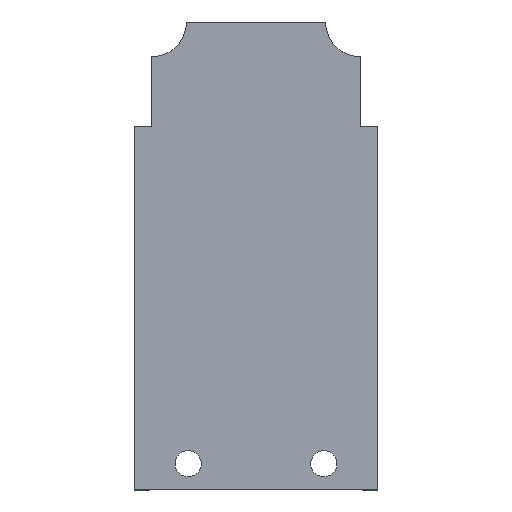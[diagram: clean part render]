
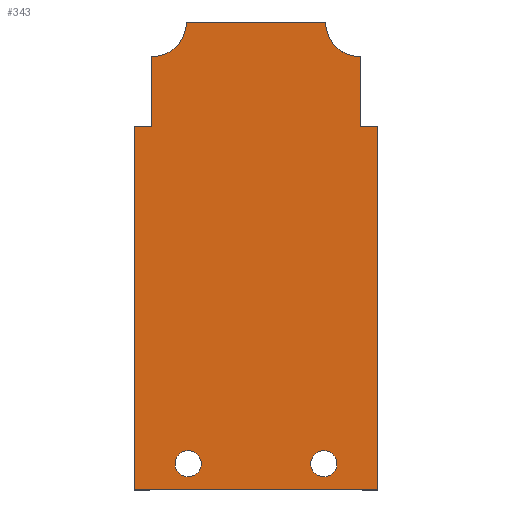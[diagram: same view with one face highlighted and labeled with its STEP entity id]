
A CAD part, top view. The second image highlights one B-rep face of the part: STEP entity #343.
In plain terms, the highlighted planar face has unit normal (0, 0, 1).
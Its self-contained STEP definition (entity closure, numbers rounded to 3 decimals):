
#45 = LINE ( 'NONE', #555, #2152 ) ;
#59 = DIRECTION ( 'NONE',  ( 0., 0., 1. ) ) ;
#71 = CARTESIAN_POINT ( 'NONE',  ( 11039., 3885., 3484. ) ) ;
#89 = VERTEX_POINT ( 'NONE', #145 ) ;
#97 = CARTESIAN_POINT ( 'NONE',  ( 10930., 4079., 3484. ) ) ;
#107 = VERTEX_POINT ( 'NONE', #1158 ) ;
#110 = EDGE_CURVE ( 'NONE', #2136, #551, #1715, .T. ) ;
#145 = CARTESIAN_POINT ( 'NONE',  ( 10968.5, 3885., 3484. ) ) ;
#155 = DIRECTION ( 'NONE',  ( 1., 0., 0. ) ) ;
#159 = CARTESIAN_POINT ( 'NONE',  ( 11040., 4139., 3484. ) ) ;
#195 = CARTESIAN_POINT ( 'NONE',  ( 10930., 4079., 3484. ) ) ;
#200 = CARTESIAN_POINT ( 'NONE',  ( 10960., 4139., 3484. ) ) ;
#216 = DIRECTION ( 'NONE',  ( 1., 0., 0. ) ) ;
#217 = DIRECTION ( 'NONE',  ( 0., -1., 0. ) ) ;
#261 = CIRCLE ( 'NONE', #805, 7.5 ) ;
#276 = CARTESIAN_POINT ( 'NONE',  ( 10930., 3870., 3484. ) ) ;
#284 = CARTESIAN_POINT ( 'NONE',  ( 10940., 4139., 3484. ) ) ;
#286 = CARTESIAN_POINT ( 'NONE',  ( 11039., 3885., 3484. ) ) ;
#308 = EDGE_CURVE ( 'NONE', #2102, #1924, #1374, .T. ) ;
#330 = CIRCLE ( 'NONE', #507, 7.5 ) ;
#343 = ADVANCED_FACE ( 'NONE', ( #578, #392, #1098 ), #1423, .F. ) ;
#373 = ORIENTED_EDGE ( 'NONE', *, *, #1648, .F. ) ;
#392 = FACE_BOUND ( 'NONE', #888, .T. ) ;
#402 = VECTOR ( 'NONE', #2203, 1000. ) ;
#405 = CIRCLE ( 'NONE', #1459, 7.5 ) ;
#439 = CARTESIAN_POINT ( 'NONE',  ( 10930., 3870., 3484. ) ) ;
#449 = CARTESIAN_POINT ( 'NONE',  ( 11070., 3870., 3484. ) ) ;
#450 = DIRECTION ( 'NONE',  ( 0., 0., -1. ) ) ;
#463 = ORIENTED_EDGE ( 'NONE', *, *, #110, .F. ) ;
#477 = VECTOR ( 'NONE', #2192, 1000. ) ;
#502 = CIRCLE ( 'NONE', #2110, 20. ) ;
#507 = AXIS2_PLACEMENT_3D ( 'NONE', #71, #450, #776 ) ;
#543 = AXIS2_PLACEMENT_3D ( 'NONE', #284, #1881, #1335 ) ;
#551 = VERTEX_POINT ( 'NONE', #200 ) ;
#555 = CARTESIAN_POINT ( 'NONE',  ( 10930., 4139., 3484. ) ) ;
#568 = VERTEX_POINT ( 'NONE', #1899 ) ;
#576 = EDGE_CURVE ( 'NONE', #1114, #1209, #502, .T. ) ;
#578 = FACE_BOUND ( 'NONE', #2241, .T. ) ;
#585 = ORIENTED_EDGE ( 'NONE', *, *, #1444, .F. ) ;
#589 = CARTESIAN_POINT ( 'NONE',  ( 11070., 4079., 3484. ) ) ;
#621 = ORIENTED_EDGE ( 'NONE', *, *, #1937, .T. ) ;
#643 = LINE ( 'NONE', #1582, #1019 ) ;
#650 = VERTEX_POINT ( 'NONE', #1252 ) ;
#659 = EDGE_CURVE ( 'NONE', #2199, #107, #1954, .T. ) ;
#680 = EDGE_CURVE ( 'NONE', #1530, #1924, #1671, .T. ) ;
#713 = EDGE_CURVE ( 'NONE', #568, #89, #261, .T. ) ;
#718 = CARTESIAN_POINT ( 'NONE',  ( 10930., 3870., 3484. ) ) ;
#732 = EDGE_CURVE ( 'NONE', #89, #568, #405, .T. ) ;
#746 = CARTESIAN_POINT ( 'NONE',  ( 10930., 3870., 3484. ) ) ;
#758 = EDGE_CURVE ( 'NONE', #107, #650, #1368, .T. ) ;
#776 = DIRECTION ( 'NONE',  ( -1., 0., 0. ) ) ;
#778 = DIRECTION ( 'NONE',  ( 0., 0., -1. ) ) ;
#805 = AXIS2_PLACEMENT_3D ( 'NONE', #1543, #1054, #1731 ) ;
#812 = CARTESIAN_POINT ( 'NONE',  ( 11060., 4079., 3484. ) ) ;
#848 = EDGE_CURVE ( 'NONE', #1530, #2199, #1268, .T. ) ;
#850 = CARTESIAN_POINT ( 'NONE',  ( 10940., 4119., 3484. ) ) ;
#851 = ORIENTED_EDGE ( 'NONE', *, *, #758, .F. ) ;
#886 = DIRECTION ( 'NONE',  ( 0., 0., -1. ) ) ;
#888 = EDGE_LOOP ( 'NONE', ( #1741, #621 ) ) ;
#932 = EDGE_CURVE ( 'NONE', #1830, #1488, #1792, .T. ) ;
#980 = ORIENTED_EDGE ( 'NONE', *, *, #2214, .F. ) ;
#1009 = CARTESIAN_POINT ( 'NONE',  ( 10961., 3885., 3484. ) ) ;
#1019 = VECTOR ( 'NONE', #1592, 1000. ) ;
#1054 = DIRECTION ( 'NONE',  ( 0., 0., -1. ) ) ;
#1082 = CARTESIAN_POINT ( 'NONE',  ( 11060., 3870., 3484. ) ) ;
#1091 = ORIENTED_EDGE ( 'NONE', *, *, #680, .T. ) ;
#1098 = FACE_OUTER_BOUND ( 'NONE', #1112, .T. ) ;
#1112 = EDGE_LOOP ( 'NONE', ( #980, #2068, #373, #463, #585, #851, #2206, #1687, #1091, #1371 ) ) ;
#1114 = VERTEX_POINT ( 'NONE', #159 ) ;
#1128 = ORIENTED_EDGE ( 'NONE', *, *, #713, .T. ) ;
#1158 = CARTESIAN_POINT ( 'NONE',  ( 10930., 4079., 3484. ) ) ;
#1209 = VERTEX_POINT ( 'NONE', #1553 ) ;
#1236 = VECTOR ( 'NONE', #1819, 1000. ) ;
#1252 = CARTESIAN_POINT ( 'NONE',  ( 10940., 4079., 3484. ) ) ;
#1268 = LINE ( 'NONE', #718, #1236 ) ;
#1282 = LINE ( 'NONE', #1082, #1836 ) ;
#1288 = CARTESIAN_POINT ( 'NONE',  ( 11046.5, 3885., 3484. ) ) ;
#1317 = DIRECTION ( 'NONE',  ( -1., 0., 0. ) ) ;
#1323 = CARTESIAN_POINT ( 'NONE',  ( 11031.5, 3885., 3484. ) ) ;
#1335 = DIRECTION ( 'NONE',  ( 1., 0., 0. ) ) ;
#1359 = DIRECTION ( 'NONE',  ( -1., 0., 0. ) ) ;
#1368 = LINE ( 'NONE', #195, #2078 ) ;
#1371 = ORIENTED_EDGE ( 'NONE', *, *, #308, .F. ) ;
#1374 = LINE ( 'NONE', #97, #1536 ) ;
#1423 = PLANE ( 'NONE',  #2186 ) ;
#1439 = CARTESIAN_POINT ( 'NONE',  ( 11070., 3870., 3484. ) ) ;
#1444 = EDGE_CURVE ( 'NONE', #650, #2136, #643, .T. ) ;
#1459 = AXIS2_PLACEMENT_3D ( 'NONE', #1009, #886, #1359 ) ;
#1488 = VERTEX_POINT ( 'NONE', #1288 ) ;
#1530 = VERTEX_POINT ( 'NONE', #1439 ) ;
#1536 = VECTOR ( 'NONE', #2171, 1000. ) ;
#1543 = CARTESIAN_POINT ( 'NONE',  ( 10961., 3885., 3484. ) ) ;
#1553 = CARTESIAN_POINT ( 'NONE',  ( 11060., 4119., 3484. ) ) ;
#1582 = CARTESIAN_POINT ( 'NONE',  ( 10940., 3870., 3484. ) ) ;
#1592 = DIRECTION ( 'NONE',  ( 0., 1., 0. ) ) ;
#1624 = DIRECTION ( 'NONE',  ( -1., 0., 0. ) ) ;
#1647 = DIRECTION ( 'NONE',  ( 1., 0., 0. ) ) ;
#1648 = EDGE_CURVE ( 'NONE', #551, #1114, #45, .T. ) ;
#1671 = LINE ( 'NONE', #449, #477 ) ;
#1687 = ORIENTED_EDGE ( 'NONE', *, *, #848, .F. ) ;
#1715 = CIRCLE ( 'NONE', #543, 20. ) ;
#1731 = DIRECTION ( 'NONE',  ( -1., 0., 0. ) ) ;
#1741 = ORIENTED_EDGE ( 'NONE', *, *, #932, .T. ) ;
#1745 = ORIENTED_EDGE ( 'NONE', *, *, #732, .T. ) ;
#1792 = CIRCLE ( 'NONE', #1900, 7.5 ) ;
#1819 = DIRECTION ( 'NONE',  ( -1., 0., 0. ) ) ;
#1830 = VERTEX_POINT ( 'NONE', #1323 ) ;
#1836 = VECTOR ( 'NONE', #217, 1000. ) ;
#1854 = DIRECTION ( 'NONE',  ( 0., 0., -1. ) ) ;
#1881 = DIRECTION ( 'NONE',  ( 0., 0., 1. ) ) ;
#1899 = CARTESIAN_POINT ( 'NONE',  ( 10953.5, 3885., 3484. ) ) ;
#1900 = AXIS2_PLACEMENT_3D ( 'NONE', #286, #1854, #1317 ) ;
#1924 = VERTEX_POINT ( 'NONE', #589 ) ;
#1937 = EDGE_CURVE ( 'NONE', #1488, #1830, #330, .T. ) ;
#1954 = LINE ( 'NONE', #276, #402 ) ;
#1979 = CARTESIAN_POINT ( 'NONE',  ( 11060., 4139., 3484. ) ) ;
#2068 = ORIENTED_EDGE ( 'NONE', *, *, #576, .F. ) ;
#2078 = VECTOR ( 'NONE', #155, 1000. ) ;
#2102 = VERTEX_POINT ( 'NONE', #812 ) ;
#2110 = AXIS2_PLACEMENT_3D ( 'NONE', #1979, #59, #1647 ) ;
#2136 = VERTEX_POINT ( 'NONE', #850 ) ;
#2152 = VECTOR ( 'NONE', #216, 1000. ) ;
#2171 = DIRECTION ( 'NONE',  ( 1., 0., 0. ) ) ;
#2186 = AXIS2_PLACEMENT_3D ( 'NONE', #439, #778, #1624 ) ;
#2192 = DIRECTION ( 'NONE',  ( 0., 1., 0. ) ) ;
#2199 = VERTEX_POINT ( 'NONE', #746 ) ;
#2203 = DIRECTION ( 'NONE',  ( 0., 1., 0. ) ) ;
#2206 = ORIENTED_EDGE ( 'NONE', *, *, #659, .F. ) ;
#2214 = EDGE_CURVE ( 'NONE', #1209, #2102, #1282, .T. ) ;
#2241 = EDGE_LOOP ( 'NONE', ( #1128, #1745 ) ) ;
